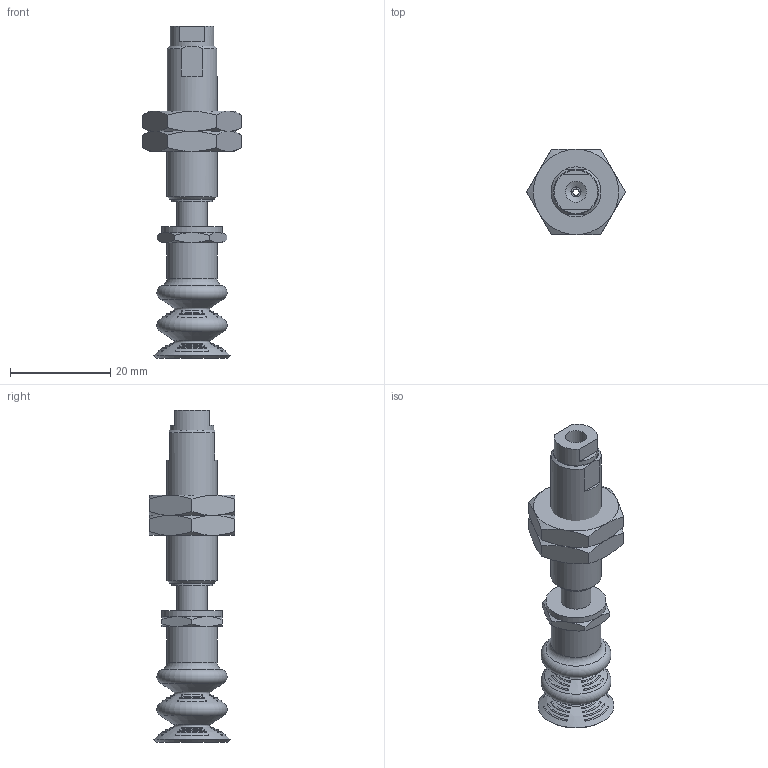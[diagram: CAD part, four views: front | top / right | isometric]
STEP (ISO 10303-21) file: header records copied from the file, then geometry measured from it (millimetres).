
FILE_DESCRIPTION(('STEP AP203'),'1');
FILE_NAME('-LB.stp','2025-04-04T02:00:57',(' '),(' '),'Spatial InterOp 3D',' ',' ');
FILE_SCHEMA(('CONFIG_CONTROL_DESIGN'));
Length unit declared in the file: millimetre
Products named in the file (7): BNABPCTH-15-5-※-LB; __; BODY; NUT; BPCG-15-※; TN-PC-10-M5
Assembly tree (6 placements, depth 2):
  BNABPCTH-15-5-※-LB
    __
    BODY
    NUT
    NUT
    BPCG-15-※
    TN-PC-10-M5
Bounding box: 19.63 x 17 x 66.2 mm (x, y, z)
Volume: 6213.2 mm3; surface area: 5351.1 mm2
Topology: 6 solids, 6 shells, 201 faces, 623 edges, 404 vertices
Faces by surface type: sphere 58, cone 49, plane 43, torus 34, cylinder 17
Full cylindrical faces by diameter (mm): 1.25 x1, 2 x1, 4.2 x2, 5 x5, 6 x1, 8 x1, 8.7 x1, 9 x2, 10 x2, 12 x1
Entity records: 6167 total; most frequent: CARTESIAN_POINT 1599, DIRECTION 924, ORIENTED_EDGE 788, AXIS2_PLACEMENT_3D 446, EDGE_CURVE 394, EDGE_LOOP 282, VERTEX_POINT 274, CIRCLE 238
